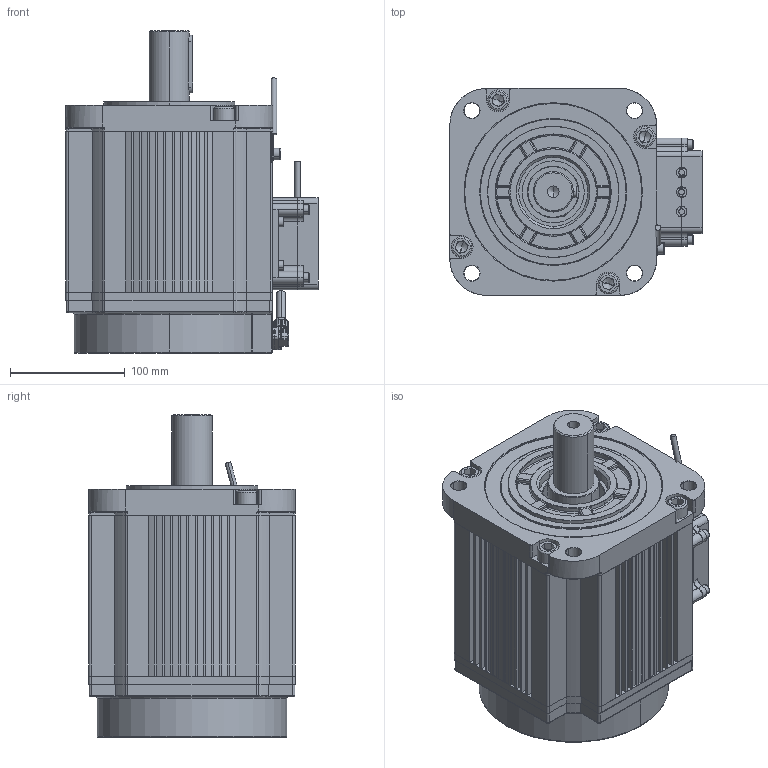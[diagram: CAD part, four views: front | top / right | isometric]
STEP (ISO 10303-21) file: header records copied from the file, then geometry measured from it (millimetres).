
FILE_DESCRIPTION (( 'STEP AP203' ), '1' );
FILE_NAME ('307091506SS（SMK180G-0500-20QAK-4GSA）-V1.0.STEP', '2025-01-06T11:48:13', ( 'wuyd' ), ( '' ), 'SwSTEP 2.0', 'SolidWorks 2023', '' );
FILE_SCHEMA (( 'CONFIG_CONTROL_DESIGN' ));
Products named in the file (1): 307091506SS（SMK180G-0500-20QAK-4GSA）-V1.0
Bounding box: 219.65 x 180 x 280.5 mm (x, y, z)
Volume: 1671054.3 mm3; surface area: 593497.4 mm2
Topology: 54 solids, 54 shells, 4190 faces, 10463 edges, 6351 vertices
Faces by surface type: plane 1867, cylinder 1225, torus 408, bspline 303, cone 293, sphere 94
Entity records: 141862 total; most frequent: CARTESIAN_POINT 43259, DIRECTION 20659, ORIENTED_EDGE 20506, EDGE_CURVE 10253, AXIS2_PLACEMENT_3D 7467, VERTEX_POINT 6351, VECTOR 5725, LINE 5725
